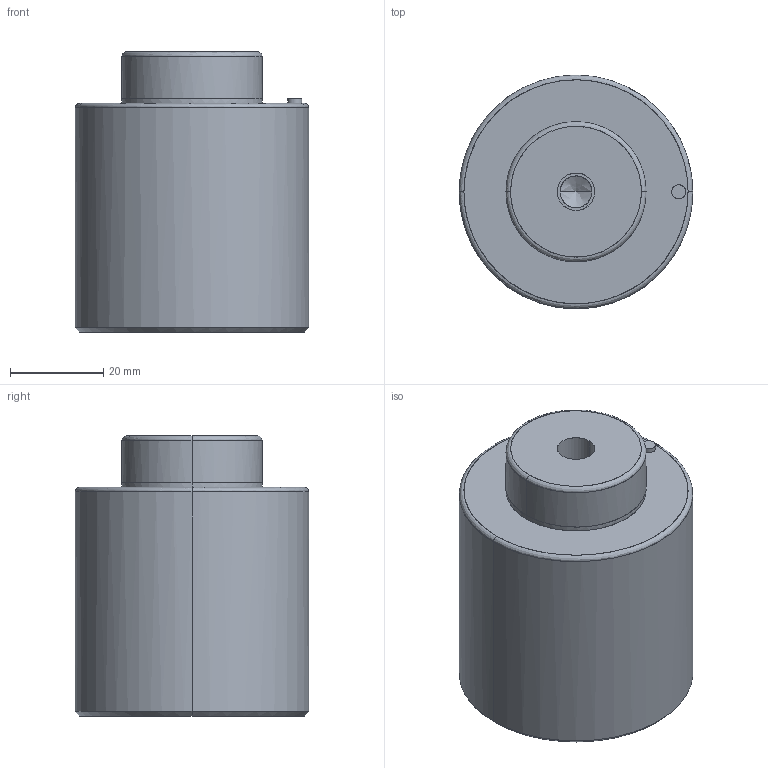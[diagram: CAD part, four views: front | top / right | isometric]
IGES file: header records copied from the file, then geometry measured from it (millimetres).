
Global section: file name: E:\UnigraphicsGraphicData\MISUMI_PRESS-PARTS\IGES\3d_gsc50-10_03841_r00.igs; native system: NX V5.0; preprocessor: UGS NX IGES V5.0; author: MISUMI; date: 20110105.160748; units: millimetre
Bounding box: 50 x 49.99 x 60 mm (x, y, z)
Surface area: 13353.6 mm2 (no closed solid volume)
Topology: 0 solids, 0 shells, 32 faces, 232 edges, 228 vertices
Faces by surface type: bspline 32
